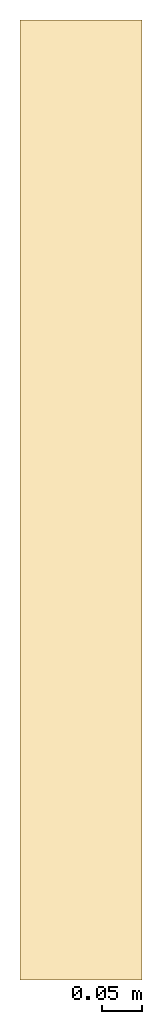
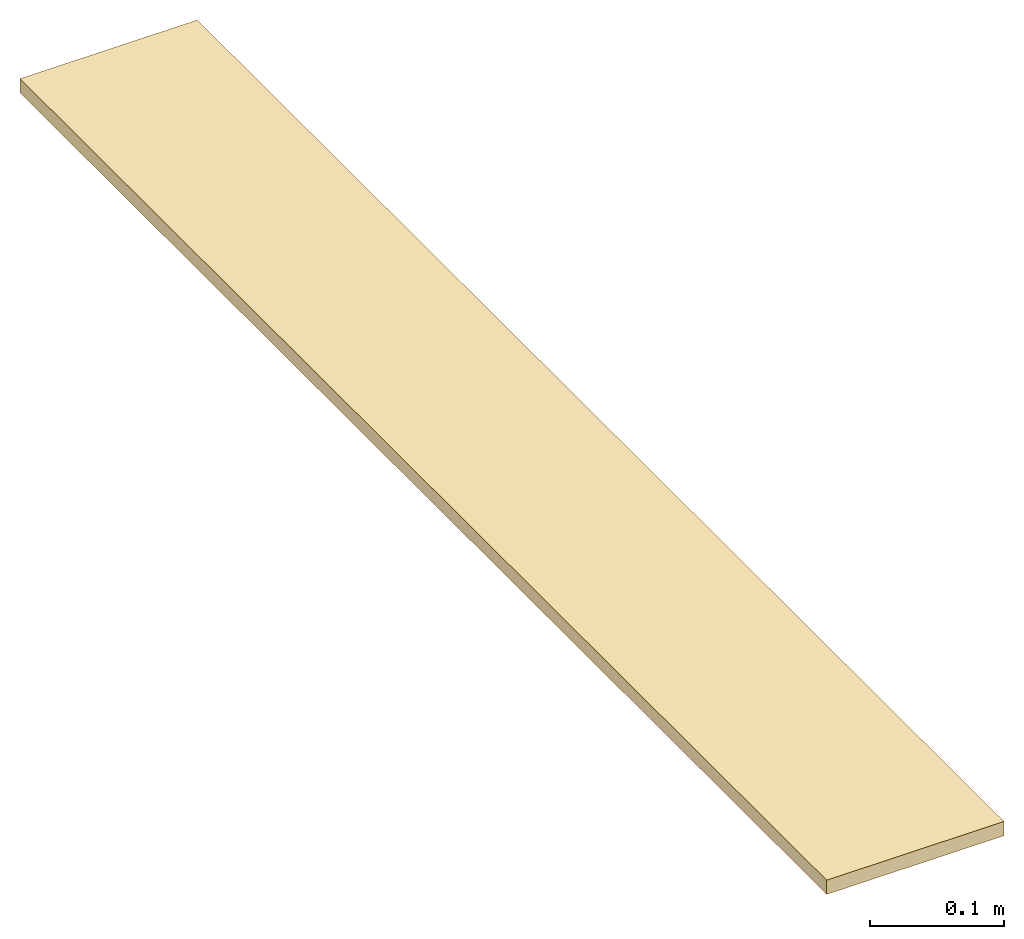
# One storey: 1 covering.
"""IFC4 building model written with IfcOpenShell, lengths in centimetres."""

from ifc_helpers import new_model, entity, si_unit, converted_unit, direction, frame, origin, place, context, subcontext, project, spatial, indexed_curve, outline, extrude, material, type_object, element, save


model = new_model("IFC4")

# Units and contexts
model_context = context("Model", 3, precision=0.001, world=origin(), true_north=direction((0.0, 1.0)))
body_context = subcontext(model_context, "Body", "Model", "MODEL_VIEW")
ifc_project = project(units=[si_unit("LENGTHUNIT", "METRE", prefix="CENTI"), si_unit("AREAUNIT", "SQUARE_METRE"), si_unit("VOLUMEUNIT", "CUBIC_METRE"), converted_unit("PLANEANGLEUNIT", "DEGREE", entity("IfcPlaneAngleMeasure", 0.017453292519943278), si_unit("PLANEANGLEUNIT", "RADIAN"), dimensions=[0, 0, 0, 0, 0, 0, 0])], contexts=[model_context])

# Site, building, storey
site_placement = place(None, origin())
site = spatial("IfcSite", under=ifc_project, at=site_placement, Name="Default", CompositionType="ELEMENT")
building_placement = place(site_placement, origin())
building = spatial("IfcBuilding", under=site, at=building_placement, CompositionType="ELEMENT")
storey_placement = place(building_placement, frame((0.0, 0.0, -312.0)))
storey = spatial("IfcBuildingStorey", under=building, at=storey_placement, Name="B1__ABOVE Slab", CompositionType="ELEMENT", Elevation=-312.0000000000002)

# Covering
ifc_material = material(Name="_WLL & CLG FINISHES__Lime - CEM Plaster", Category="Unassigned")
covering_type = type_object("IfcCoveringType", Name="Ceilings : Compound Ceiling : clg__INT COVERING__, GB 1.5cm__12.5(A) 3", PredefinedType="CEILING")
covering_placement = place(storey_placement, frame((1397.8494566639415, 2000.4369860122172, 351.96666666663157)))
element("IfcCovering", 1, at=covering_placement, inside=storey, type_object=covering_type, material=ifc_material, Name="Ceilings : Compound Ceiling : clg__INT COVERING__, GB 1.5cm__12.5(A) 3", PredefinedType="CEILING", context=body_context, shape_type="SweptSolid", body=[
    extrude(outline(indexed_curve([(-60.30303023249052, -7.6499999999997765), (60.30303023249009, -7.6499999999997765), (60.30303023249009, 7.649999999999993), (-60.30303023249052, 7.649999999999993), (-60.30303023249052, -7.6499999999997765)], self_intersect=False)), frame((7.65000000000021, 60.30303023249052, 0.0), z_axis=(0.0, 0.0, 1.0), x_axis=(0.0, 1.0, 0.0)), (0.0, 0.0, 1.0), 1.3000000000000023),
])

save(model, "model.ifc")
